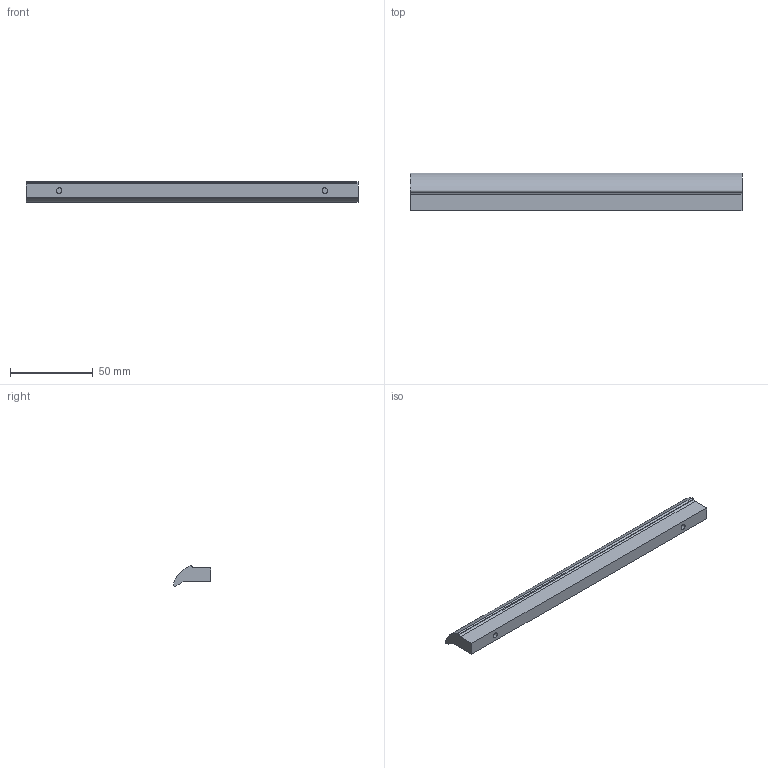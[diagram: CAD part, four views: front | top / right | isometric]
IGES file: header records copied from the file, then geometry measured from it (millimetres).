
Start section: C
Global section: file name: 8237.igs; native system: By Siemens PLM Incorporated; preprocessor: XPlus GENERIC/IGES 16.0.42; author: Author; organization: Title; date: 20200903.164124; units: millimetre
Bounding box: 200 x 22.5 x 12.32 mm (x, y, z)
Surface area: 12638.8 mm2 (no closed solid volume)
Topology: 0 solids, 0 shells, 17 faces, 86 edges, 86 vertices
Faces by surface type: bspline 17
